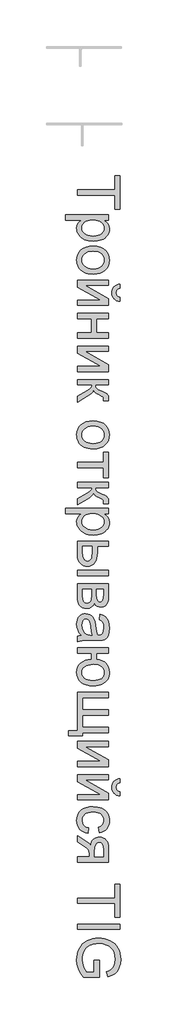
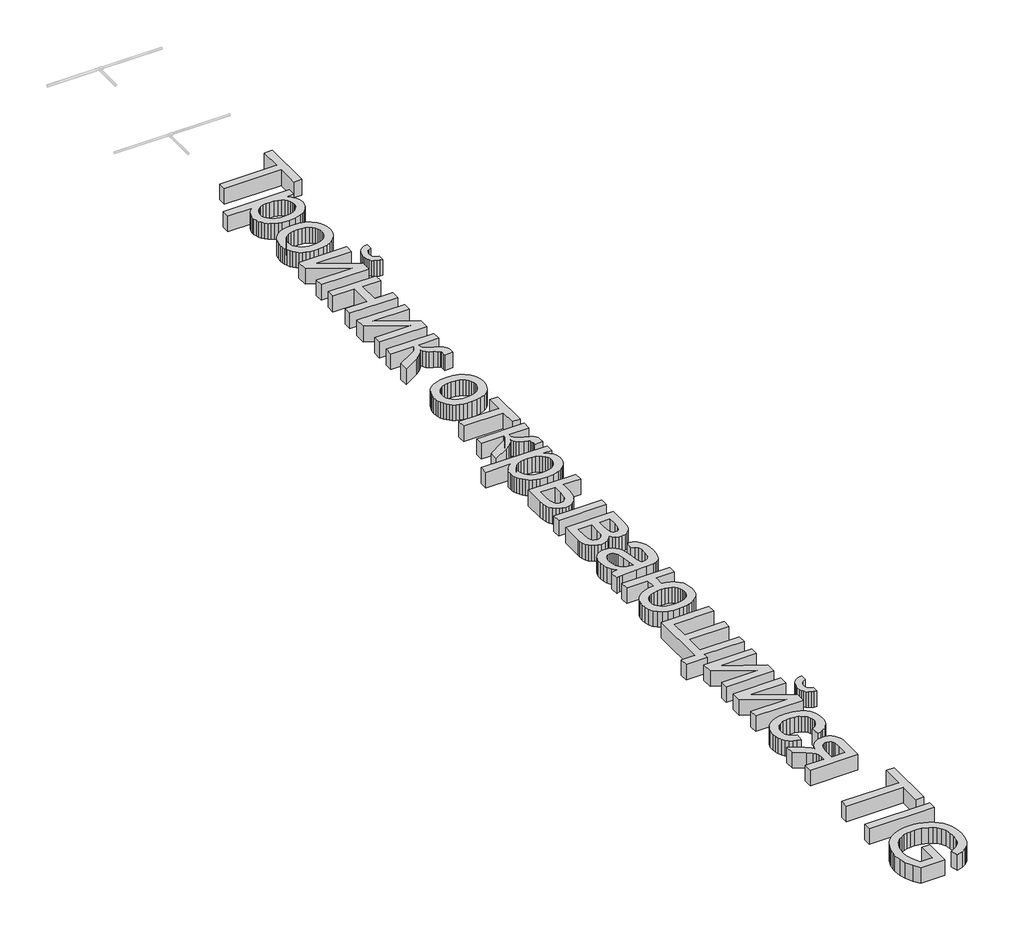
# One storey, part 20 of 33: 1 proxy.
"""IFC4 building model written with IfcOpenShell, lengths in millimetres."""

from ifc_helpers import new_model, si_unit, origin, origin_with_axes, place, context, project, spatial, polyline, outline, extrude, element, save

model = new_model("IFC4")

# Units and contexts
model_context = context("Model", 3, world=origin())
ifc_project = project(units=[si_unit("LENGTHUNIT", "METRE", prefix="MILLI")], contexts=[model_context])

# Site, building, storey
site = spatial("IfcSite", under=ifc_project)
building = spatial("IfcBuilding", under=site)
storey = spatial("IfcBuildingStorey", under=building, Name="Уровень 1", Elevation=0.0)

# Proxy
placement = place(None, origin())
element("IfcBuildingElementProxy", 1, Name="Надпись на модели 1", ObjectType="Надпись на модели 1", at=placement, inside=storey, context=model_context, shape_type="SweptSolid", body=[
    extrude(outline(polyline([(34624.4625724, -945.4132915), (35141.3856493, -945.4132915), (35141.3856493, -751.5671377), (35215.2318032, -751.5671377), (35215.2318032, -1213.1055992), (35141.3856493, -1213.1055992), (35141.3856493, -1019.2594454), (34624.4625724, -1019.2594454), (34624.4625724, -945.4132915)])), origin_with_axes(), (0.0, 0.0, 1.0), 150.0),
    extrude(outline(polyline([(34458.3087262, -1286.9517531), (35058.3087262, -1286.9517531), (35058.3087262, -1360.7979069), (34985.9048801, -1360.7979069), (35021.6200243, -1384.8844454), (35047.1308416, -1411.8555992), (35062.437332, -1443.2979069), (35067.5394955, -1480.7979069), (35065.7546397, -1506.5521136), (35060.4000724, -1530.7378107), (35051.4757936, -1553.3549982), (35038.9818032, -1574.4036761), (35023.2426205, -1593.4241088), (35004.5827647, -1609.9565607), (34983.0022359, -1624.0010319), (34958.5010339, -1635.5575223), (34904.0899762, -1651.0262723), (34844.702957, -1656.1825223), (34781.5479089, -1650.359205), (34752.4718873, -1643.0800583), (34725.0635339, -1632.8892531), (34700.0394955, -1619.9265127), (34678.1164186, -1604.3315607), (34659.2943032, -1586.1043973), (34643.5731493, -1565.2450223), (34631.1738104, -1542.7765728), (34622.3171397, -1519.7221857), (34617.0031373, -1496.0818612), (34615.2318032, -1471.8555992), (34619.9733897, -1437.9072819), (34634.1981493, -1407.6007915), (34655.6705051, -1381.6572819), (34682.1548801, -1360.7979069), (34458.3087262, -1360.7979069), (34458.3087262, -1286.9517531)]), holes=[polyline([(34837.9241109, -1360.7979069), (34802.3351686, -1362.7946016), (34771.7221878, -1368.7846857), (34746.0851686, -1378.7681593), (34725.4241109, -1392.7450223), (34709.5226686, -1409.570443), (34698.1644955, -1428.0995896), (34691.3495916, -1448.3324622), (34689.077957, -1470.2690607), (34691.4307214, -1492.5211641), (34698.4890147, -1513.1236281), (34710.2528368, -1532.0764526), (34726.7221878, -1549.3796377), (34748.1314426, -1563.7982074), (34774.7149762, -1574.0971857), (34806.4727887, -1580.2765728), (34843.4048801, -1582.3363684), (34878.687332, -1580.3261521), (34909.2462262, -1574.2955031), (34935.0815628, -1564.2444213), (34956.1933416, -1550.1729069), (34972.5995916, -1533.3069213), (34984.3183416, -1514.8724261), (34991.3495916, -1494.8694213), (34993.6933416, -1473.2979069), (34991.2008537, -1451.7940006), (34983.7233897, -1431.5611281), (34971.2609498, -1412.5992891), (34953.8135339, -1394.9084838), (34931.6155171, -1379.9851064), (34904.9012743, -1369.3255511), (34873.6708056, -1362.929818), (34837.9241109, -1360.7979069)])]), origin_with_axes(), (0.0, 0.0, 1.0), 150.0),
    extrude(outline(polyline([(34841.3856493, -1720.7979069), (34897.5725484, -1724.7912963), (34945.9890147, -1736.7714646), (34986.6350484, -1756.7384117), (35019.5106493, -1784.6921377), (35040.5232695, -1812.8351665), (35055.5322839, -1843.8988684), (35064.5376926, -1877.8832434), (35067.5394955, -1914.7882915), (35063.8841469, -1955.5289766), (35052.9181012, -1992.3664165), (35034.6413585, -2025.3006112), (35009.0539186, -2054.3315607), (34977.0211662, -2078.0259718), (34939.4084859, -2094.9505511), (34896.2158777, -2105.1052987), (34847.4433416, -2108.4902146), (34807.9150964, -2106.9938204), (34772.8399762, -2102.5046377), (34742.2179811, -2095.0226665), (34716.0491109, -2084.5479069), (34693.445445, -2071.211068), (34673.5190628, -2055.1428588), (34656.2699642, -2036.3432795), (34641.6981493, -2014.81233), (34630.1191229, -1991.3883516), (34621.8483897, -1966.9096857), (34616.8859498, -1941.3763324), (34615.2318032, -1914.7882915), (34618.8736301, -1873.4526545), (34629.7991109, -1836.2726665), (34648.0082455, -1803.2483276), (34673.5010339, -1774.3796377), (34705.8447839, -1750.9376305), (34744.6068032, -1734.1933396), (34789.7870916, -1724.1467651), (34841.3856493, -1720.7979069)]), holes=[polyline([(34841.5298801, -1794.6440607), (34805.71107, -1796.780479), (34774.6969474, -1803.1897338), (34748.4875123, -1813.8718252), (34727.0827647, -1828.8267531), (34710.4556613, -1847.0178588), (34698.5791589, -1867.4084838), (34691.4532575, -1889.9986281), (34689.077957, -1914.7882915), (34691.4667791, -1939.4517531), (34698.6332455, -1961.9517531), (34710.5773561, -1982.2882915), (34727.2991109, -2000.4613684), (34748.9156974, -2015.4162963), (34775.5443032, -2026.0983877), (34807.1849282, -2032.5076425), (34843.8375724, -2034.6440607), (34878.5205652, -2032.4941208), (34908.7233897, -2026.0443011), (34934.446046, -2015.2946016), (34955.6885339, -2000.2450223), (34972.3156373, -1982.0043372), (34984.1921397, -1961.6813204), (34991.3180412, -1939.2759718), (34993.6933416, -1914.7882915), (34991.3270556, -1889.9986281), (34984.2281974, -1867.4084838), (34972.3967671, -1847.0178588), (34955.8327647, -1828.8267531), (34934.4911181, -1813.8718252), (34908.3267551, -1803.1897338), (34877.3396758, -1796.780479), (34841.5298801, -1794.6440607)])]), origin_with_axes(), (0.0, 0.0, 1.0), 150.0),
    extrude(outline(polyline([(35058.3087262, -2191.5671377), (35058.3087262, -2265.4132915), (34727.4433416, -2265.4132915), (35058.3087262, -2446.8555992), (35058.3087262, -2542.3363684), (34624.4625724, -2542.3363684), (34624.4625724, -2468.4902146), (34953.3087262, -2468.4902146), (34624.4625724, -2288.2017531), (34624.4625724, -2191.5671377), (35058.3087262, -2191.5671377)])), origin_with_axes(), (0.0, 0.0, 1.0), 150.0),
    extrude(outline(polyline([(35215.2318032, -2431.5671377), (35215.2318032, -2486.9517531), (35190.0319835, -2482.4941208), (35167.9421397, -2475.0346857), (35148.9622719, -2464.5734478), (35133.0923801, -2451.1104069), (35120.5668392, -2434.9159958), (35111.6200243, -2416.2606473), (35106.2519354, -2395.1443612), (35104.4625724, -2371.5671377), (35106.2384137, -2345.9571617), (35111.5659378, -2323.0695415), (35120.4451445, -2302.9042771), (35132.8760339, -2285.4613684), (35148.6783176, -2270.9932194), (35167.671707, -2259.7522338), (35189.8562022, -2251.7384117), (35215.2318032, -2246.9517531), (35215.2318032, -2302.3363684), (35190.9108897, -2310.12483), (35173.6212262, -2323.1055992), (35163.2906974, -2341.3507915), (35159.8471878, -2364.9325223), (35163.1825243, -2391.5430992), (35173.1885339, -2410.7979069), (35190.3700243, -2423.7786761), (35215.2318032, -2431.5671377)])), origin_with_axes(), (0.0, 0.0, 1.0), 150.0),
    extrude(outline(polyline([(35058.3087262, -2653.1055992), (35058.3087262, -2726.9517531), (34892.1548801, -2726.9517531), (34892.1548801, -2920.7979069), (35058.3087262, -2920.7979069), (35058.3087262, -2994.6440607), (34624.4625724, -2994.6440607), (34624.4625724, -2920.7979069), (34818.3087262, -2920.7979069), (34818.3087262, -2726.9517531), (34624.4625724, -2726.9517531), (34624.4625724, -2653.1055992), (35058.3087262, -2653.1055992)])), origin_with_axes(), (0.0, 0.0, 1.0), 150.0),
    extrude(outline(polyline([(35058.3087262, -3105.4132915), (35058.3087262, -3179.2594454), (34727.4433416, -3179.2594454), (35058.3087262, -3360.7017531), (35058.3087262, -3456.1825223), (34624.4625724, -3456.1825223), (34624.4625724, -3382.3363684), (34953.3087262, -3382.3363684), (34624.4625724, -3202.0479069), (34624.4625724, -3105.4132915), (35058.3087262, -3105.4132915)])), origin_with_axes(), (0.0, 0.0, 1.0), 150.0),
    extrude(outline(polyline([(35058.3087262, -3566.9517531), (35058.3087262, -3640.7979069), (34873.6933416, -3640.7979069), (34877.0106493, -3670.8339646), (34886.9625724, -3690.2690607), (34912.9241109, -3707.46858), (34964.2702647, -3730.7979069), (35006.2594474, -3749.6019934), (35030.9769955, -3764.4757915), (35044.4445436, -3778.3580031), (35052.6837262, -3794.18733), (35056.9024762, -3816.0923781), (35058.3087262, -3848.2017531), (35058.3087262, -3862.3363684), (34984.0298801, -3862.3363684), (34984.4625724, -3842.4325223), (34982.515457, -3819.3555992), (34976.6741109, -3806.37483), (34960.4120916, -3795.8459838), (34928.0683416, -3780.9902146), (34895.6705051, -3765.3952627), (34875.4962262, -3751.2065607), (34862.0286782, -3734.0250704), (34849.7510339, -3709.4517531), (34839.3574041, -3732.8531954), (34821.0130532, -3756.0382915), (34794.7179811, -3779.0070415), (34760.4721878, -3801.7594454), (34624.4625724, -3880.7979069), (34624.4625724, -3796.8555992), (34757.5875724, -3719.4036761), (34793.0142551, -3698.4902146), (34813.9096878, -3680.4613684), (34824.1320436, -3662.2522338), (34827.5394955, -3640.7979069), (34624.4625724, -3640.7979069), (34624.4625724, -3566.9517531), (35058.3087262, -3566.9517531)])), origin_with_axes(), (0.0, 0.0, 1.0), 150.0),
    extrude(outline(polyline([(34841.3856493, -4139.2594454), (34897.5725484, -4143.2528348), (34945.9890147, -4155.2330031), (34986.6350484, -4175.1999502), (35019.5106493, -4203.1536761), (35040.5232695, -4231.296705), (35055.5322839, -4262.3604069), (35064.5376926, -4296.3447819), (35067.5394955, -4333.24983), (35063.8841469, -4373.9905151), (35052.9181012, -4410.827955), (35034.6413585, -4443.7621497), (35009.0539186, -4472.7930992), (34977.0211662, -4496.4875103), (34939.4084859, -4513.4120896), (34896.2158777, -4523.5668372), (34847.4433416, -4526.9517531), (34807.9150964, -4525.4553588), (34772.8399762, -4520.9661761), (34742.2179811, -4513.484205), (34716.0491109, -4503.0094454), (34693.445445, -4489.6726064), (34673.5190628, -4473.6043973), (34656.2699642, -4454.804818), (34641.6981493, -4433.2738684), (34630.1191229, -4409.8498901), (34621.8483897, -4385.3712242), (34616.8859498, -4359.8378708), (34615.2318032, -4333.24983), (34618.8736301, -4291.914193), (34629.7991109, -4254.734205), (34648.0082455, -4221.709866), (34673.5010339, -4192.8411761), (34705.8447839, -4169.3991689), (34744.6068032, -4152.6548781), (34789.7870916, -4142.6083035), (34841.3856493, -4139.2594454)]), holes=[polyline([(34841.5298801, -4213.1055992), (34805.71107, -4215.2420175), (34774.6969474, -4221.6512723), (34748.4875123, -4232.3333636), (34727.0827647, -4247.2882915), (34710.4556613, -4265.4793973), (34698.5791589, -4285.8700223), (34691.4532575, -4308.4601665), (34689.077957, -4333.24983), (34691.4667791, -4357.9132915), (34698.6332455, -4380.4132915), (34710.5773561, -4400.74983), (34727.2991109, -4418.9229069), (34748.9156974, -4433.8778348), (34775.5443032, -4444.5599261), (34807.1849282, -4450.9691809), (34843.8375724, -4453.1055992), (34878.5205652, -4450.9556593), (34908.7233897, -4444.5058396), (34934.446046, -4433.7561401), (34955.6885339, -4418.7065607), (34972.3156373, -4400.4658756), (34984.1921397, -4380.1428588), (34991.3180412, -4357.7375103), (34993.6933416, -4333.24983), (34991.3270556, -4308.4601665), (34984.2281974, -4285.8700223), (34972.3967671, -4265.4793973), (34955.8327647, -4247.2882915), (34934.4911181, -4232.3333636), (34908.3267551, -4221.6512723), (34877.3396758, -4215.2420175), (34841.5298801, -4213.1055992)])]), origin_with_axes(), (0.0, 0.0, 1.0), 150.0),
    extrude(outline(polyline([(35058.3087262, -4573.1055992), (35058.3087262, -4923.87483), (34984.4625724, -4923.87483), (34984.4625724, -4785.4132915), (34624.4625724, -4785.4132915), (34624.4625724, -4711.5671377), (34984.4625724, -4711.5671377), (34984.4625724, -4573.1055992), (35058.3087262, -4573.1055992)])), origin_with_axes(), (0.0, 0.0, 1.0), 150.0),
    extrude(outline(polyline([(35058.3087262, -4988.4902146), (35058.3087262, -5062.3363684), (34873.6933416, -5062.3363684), (34877.0106493, -5092.3724261), (34886.9625724, -5111.8075223), (34912.9241109, -5129.0070415), (34964.2702647, -5152.3363684), (35006.2594474, -5171.140455), (35030.9769955, -5186.0142531), (35044.4445436, -5199.8964646), (35052.6837262, -5215.7257915), (35056.9024762, -5237.6308396), (35058.3087262, -5269.7402146), (35058.3087262, -5283.87483), (34984.0298801, -5283.87483), (34984.4625724, -5263.9709838), (34982.515457, -5240.8940607), (34976.6741109, -5227.9132915), (34960.4120916, -5217.3844454), (34928.0683416, -5202.5286761), (34895.6705051, -5186.9337242), (34875.4962262, -5172.7450223), (34862.0286782, -5155.5635319), (34849.7510339, -5130.9902146), (34839.3574041, -5154.3916569), (34821.0130532, -5177.5767531), (34794.7179811, -5200.5455031), (34760.4721878, -5223.2979069), (34624.4625724, -5302.3363684), (34624.4625724, -5218.3940607), (34757.5875724, -5140.9421377), (34793.0142551, -5120.0286761), (34813.9096878, -5101.99983), (34824.1320436, -5083.7906954), (34827.5394955, -5062.3363684), (34624.4625724, -5062.3363684), (34624.4625724, -4988.4902146), (35058.3087262, -4988.4902146)])), origin_with_axes(), (0.0, 0.0, 1.0), 150.0),
    extrude(outline(polyline([(34458.3087262, -5348.4902146), (35058.3087262, -5348.4902146), (35058.3087262, -5422.3363684), (34985.9048801, -5422.3363684), (35021.6200243, -5446.4229069), (35047.1308416, -5473.3940607), (35062.437332, -5504.8363684), (35067.5394955, -5542.3363684), (35065.7546397, -5568.0905752), (35060.4000724, -5592.2762723), (35051.4757936, -5614.8934598), (35038.9818032, -5635.9421377), (35023.2426205, -5654.9625704), (35004.5827647, -5671.4950223), (34983.0022359, -5685.5394934), (34958.5010339, -5697.0959838), (34904.0899762, -5712.5647338), (34844.702957, -5717.7209838), (34781.5479089, -5711.8976665), (34752.4718873, -5704.6185199), (34725.0635339, -5694.4277146), (34700.0394955, -5681.4649742), (34678.1164186, -5665.8700223), (34659.2943032, -5647.6428588), (34643.5731493, -5626.7834838), (34631.1738104, -5604.3150343), (34622.3171397, -5581.2606473), (34617.0031373, -5557.6203228), (34615.2318032, -5533.3940607), (34619.9733897, -5499.4457434), (34634.1981493, -5469.1392531), (34655.6705051, -5443.1957434), (34682.1548801, -5422.3363684), (34458.3087262, -5422.3363684), (34458.3087262, -5348.4902146)]), holes=[polyline([(34837.9241109, -5422.3363684), (34802.3351686, -5424.3330631), (34771.7221878, -5430.3231473), (34746.0851686, -5440.3066208), (34725.4241109, -5454.2834838), (34709.5226686, -5471.1089045), (34698.1644955, -5489.6380511), (34691.3495916, -5509.8709237), (34689.077957, -5531.8075223), (34691.4307214, -5554.0596256), (34698.4890147, -5574.6620896), (34710.2528368, -5593.6149141), (34726.7221878, -5610.9180992), (34748.1314426, -5625.3366689), (34774.7149762, -5635.6356473), (34806.4727887, -5641.8150343), (34843.4048801, -5643.87483), (34878.687332, -5641.8646136), (34909.2462262, -5635.8339646), (34935.0815628, -5625.7828829), (34956.1933416, -5611.7113684), (34972.5995916, -5594.8453829), (34984.3183416, -5576.4108877), (34991.3495916, -5556.4078829), (34993.6933416, -5534.8363684), (34991.2008537, -5513.3324622), (34983.7233897, -5493.0995896), (34971.2609498, -5474.1377506), (34953.8135339, -5456.4469454), (34931.6155171, -5441.523568), (34904.9012743, -5430.8640127), (34873.6708056, -5424.4682795), (34837.9241109, -5422.3363684)])]), origin_with_axes(), (0.0, 0.0, 1.0), 150.0),
    extrude(outline(polyline([(35058.3087262, -6206.9517531), (35058.3087262, -6280.7979069), (34624.4625724, -6280.7979069), (34624.4625724, -6206.9517531), (35058.3087262, -6206.9517531)])), origin_with_axes(), (0.0, 0.0, 1.0), 150.0),
    extrude(outline(polyline([(35058.3087262, -5800.7979069), (35058.3087262, -5874.6440607), (34901.3856493, -5874.6440607), (34901.3856493, -5965.9421377), (34899.0734498, -6007.9538564), (34892.1368512, -6044.8543973), (34880.5758537, -6076.6437603), (34864.390457, -6103.3219454), (34844.1395556, -6124.429217), (34820.3820436, -6139.5058396), (34793.117921, -6148.5518131), (34762.3471878, -6151.5671377), (34734.8937623, -6149.038592), (34709.5046397, -6141.452955), (34686.17982, -6128.8102266), (34664.9193032, -6111.1104069), (34647.2194835, -6087.8577026), (34634.5767551, -6058.5563204), (34626.9911181, -6023.2062603), (34624.4625724, -5981.8075223), (34624.4625724, -5800.7979069), (35058.3087262, -5800.7979069)]), holes=[polyline([(34698.3087262, -5874.6440607), (34698.3087262, -5950.5094454), (34702.1849282, -6009.3195415), (34707.0301806, -6031.3417771), (34713.8135339, -6048.4421377), (34722.6521758, -6061.2516329), (34733.6632936, -6070.4012723), (34746.8468873, -6075.8910559), (34762.202957, -6077.7209838), (34786.3255532, -6072.2943011), (34807.6356493, -6056.0142531), (34816.343582, -6041.8841449), (34822.5635339, -6021.2005511), (34827.5394955, -5960.1729069), (34827.5394955, -5874.6440607), (34698.3087262, -5874.6440607)])]), origin_with_axes(), (0.0, 0.0, 1.0), 150.0),
    extrude(outline(polyline([(35058.3087262, -6391.5671377), (35058.3087262, -6554.2594454), (35055.8387743, -6606.5611281), (35048.4289186, -6643.4661761), (35034.4385339, -6670.6176184), (35012.2269955, -6693.6584838), (34983.2906974, -6709.3976665), (34949.1260339, -6714.6440607), (34921.5959859, -6711.4709838), (34897.8519955, -6701.9517531), (34877.7858897, -6686.0503107), (34861.2894955, -6663.7305992), (34845.9469474, -6691.06233), (34821.265457, -6713.3459838), (34789.1921397, -6728.1656954), (34751.6741109, -6733.1055992), (34721.4487503, -6729.0040367), (34695.3880532, -6720.59358), (34673.4920195, -6707.874229), (34655.7606493, -6690.8459838), (34642.0677407, -6669.4818011), (34632.2870916, -6643.7546377), (34626.4187022, -6613.6644934), (34624.4625724, -6579.2113684), (34624.4625724, -6391.5671377), (35058.3087262, -6391.5671377)]), holes=[polyline([(34698.3087262, -6465.4132915), (34698.3087262, -6555.9902146), (34701.6440628, -6605.3531954), (34711.6500724, -6636.3267531), (34719.5331854, -6645.9271136), (34729.8411782, -6652.9493492), (34757.7318032, -6659.2594454), (34776.2113705, -6656.1043973), (34793.2846878, -6646.6392531), (34806.6440628, -6632.1080031), (34813.9818032, -6613.7546377), (34818.3087262, -6548.7786761), (34818.3087262, -6465.4132915), (34698.3087262, -6465.4132915)]), polyline([(34892.1548801, -6465.4132915), (34892.1548801, -6538.3940607), (34895.9048801, -6598.6104069), (34901.5298801, -6614.1152146), (34910.9048801, -6627.8892531), (34923.3087262, -6637.5707434), (34938.0202647, -6640.7979069), (34950.0184618, -6639.3826425), (34960.0515147, -6635.1368492), (34968.1194234, -6628.0605271), (34974.2221878, -6618.1536761), (34981.9024762, -6587.46858), (34984.4625724, -6540.7017531), (34984.4625724, -6465.4132915), (34892.1548801, -6465.4132915)])]), origin_with_axes(), (0.0, 0.0, 1.0), 150.0),
    extrude(outline(polyline([(34679.8471878, -7102.3363684), (34649.5947839, -7067.0539165), (34629.7991109, -7030.7257915), (34618.8736301, -6992.5226665), (34615.2318032, -6951.6152146), (34617.422308, -6918.7351064), (34623.9938224, -6889.9024742), (34634.9463464, -6865.117318), (34650.2798801, -6844.3796377), (34669.0208657, -6828.0049381), (34690.1957455, -6816.3087242), (34713.8045195, -6809.2909958), (34739.8471878, -6806.9517531), (34770.4601686, -6810.4854069), (34798.2606493, -6821.0863684), (34822.0587262, -6837.4385319), (34840.6644955, -6858.2257915), (34854.7269955, -6882.6548781), (34864.8952647, -6909.9325223), (34876.0010339, -6973.8267531), (34887.6837262, -7049.3315607), (34901.3856493, -7101.9036761), (34917.827957, -7102.3363684), (34950.7846878, -7097.2522338), (34962.9902166, -7090.8970656), (34972.3471878, -7081.99983), (34981.6861301, -7066.6212242), (34988.3568032, -7047.8892531), (34993.6933416, -7000.3652146), (34990.1416589, -6956.37483), (34979.4866109, -6925.6536761), (34959.781082, -6904.7041569), (34929.077957, -6890.0286761), (34938.3087262, -6816.1825223), (34978.6933416, -6829.0010319), (35010.4241109, -6848.1296377), (35034.6909378, -6875.3531954), (35052.6837262, -6912.4565607), (35063.8255532, -6957.8351665), (35067.5394955, -7009.8844454), (35064.2582455, -7059.8063204), (35054.4144955, -7099.3796377), (35039.6128128, -7129.2173781), (35021.4577647, -7149.9325223), (34999.0118512, -7163.6705031), (34971.3375724, -7172.5767531), (34906.7221878, -7176.1825223), (34814.8471878, -7176.1825223), (34686.5539186, -7179.9325223), (34654.8411782, -7185.4854069), (34624.4625724, -7194.6440607), (34624.4625724, -7120.7979069), (34650.1356493, -7108.9709838), (34679.8471878, -7102.3363684)]), holes=[polyline([(34827.5394955, -7102.3363684), (34815.2438224, -7052.7209838), (34804.8952647, -6983.2017531), (34792.9241109, -6919.6680992), (34784.7390147, -6903.1356473), (34773.452957, -6890.8940607), (34759.9313224, -6883.3219454), (34745.0394955, -6880.7979069), (34723.0803609, -6886.296705), (34705.0875724, -6902.7930992), (34693.0803609, -6929.9265127), (34689.077957, -6967.3363684), (34693.4950243, -7006.99983), (34706.7462262, -7042.0479069), (34726.2714666, -7070.4613684), (34749.5106493, -7090.2209838), (34773.452957, -7098.9830031), (34806.6260339, -7101.9036761), (34827.5394955, -7102.3363684)])]), origin_with_axes(), (0.0, 0.0, 1.0), 150.0),
    extrude(outline(polyline([(35058.3087262, -7277.7209838), (35058.3087262, -7351.5671377), (34892.1548801, -7351.5671377), (34892.1548801, -7434.6440607), (34932.3231493, -7441.851092), (34967.4433416, -7453.8087242), (34997.515457, -7470.5169574), (35022.5394955, -7491.9757915), (35042.2269955, -7517.5812603), (35056.2894955, -7546.7293973), (35064.7269955, -7579.4202026), (35067.5394955, -7615.6536761), (35065.8853488, -7646.3252506), (35060.9229089, -7673.5803588), (35052.6521758, -7697.4190006), (35041.0731493, -7717.8411761), (35009.6128128, -7751.9878107), (34968.1644955, -7779.5719454), (34942.9241109, -7790.2044574), (34913.6452647, -7797.7991088), (34880.327957, -7802.3558997), (34842.9721878, -7803.87483), (34790.327957, -7800.7333035), (34744.4625724, -7791.3087242), (34705.3760339, -7775.601092), (34673.0683416, -7753.6104069), (34647.7648561, -7726.2381112), (34629.6909378, -7694.3856473), (34618.8465868, -7658.0530151), (34615.2318032, -7617.2402146), (34618.6212262, -7579.2038564), (34628.7894955, -7545.1428588), (34645.7366109, -7515.0572218), (34669.4625724, -7488.9469454), (34699.1019955, -7467.461068), (34733.7894955, -7451.2486281), (34773.5250724, -7440.3096256), (34818.3087262, -7434.6440607), (34818.3087262, -7351.5671377), (34624.4625724, -7351.5671377), (34624.4625724, -7277.7209838), (35058.3087262, -7277.7209838)]), holes=[polyline([(34993.6933416, -7620.4132915), (34991.3045195, -7595.4117891), (34984.1380532, -7573.3399742), (34972.1939426, -7554.1978468), (34955.4721878, -7537.9854069), (34934.4415387, -7525.0812603), (34909.5707455, -7515.8640127), (34880.859808, -7510.3336641), (34848.3087262, -7508.4902146), (34809.8757335, -7510.3471857), (34776.9325243, -7515.9180992), (34749.4790988, -7525.202955), (34727.515457, -7538.2017531), (34710.6990508, -7554.3105271), (34698.687332, -7572.9253107), (34691.4803008, -7594.046104), (34689.077957, -7617.6729069), (34691.3000123, -7641.2230872), (34697.9661782, -7662.546705), (34709.0764546, -7681.6437603), (34724.6308416, -7698.5142531), (34745.1341469, -7712.3018131), (34771.0911782, -7722.1500704), (34802.5019354, -7728.0590247), (34839.3664186, -7730.0286761), (34875.5367912, -7728.3249502), (34906.8844474, -7723.2137723), (34933.4093873, -7714.6951425), (34955.1116109, -7702.7690607), (34971.9911181, -7687.3994694), (34984.0479089, -7668.5503107), (34991.2819835, -7646.2215848), (34993.6933416, -7620.4132915)])]), origin_with_axes(), (0.0, 0.0, 1.0), 150.0),
    extrude(outline(polyline([(35058.3087262, -7896.1825223), (35058.3087262, -7970.0286761), (34698.3087262, -7970.0286761), (34698.3087262, -8136.1825223), (35058.3087262, -8136.1825223), (35058.3087262, -8210.0286761), (34698.3087262, -8210.0286761), (34698.3087262, -8376.1825223), (35058.3087262, -8376.1825223), (35058.3087262, -8450.0286761), (34698.3087262, -8450.0286761), (34698.3087262, -8496.1825223), (34504.4625724, -8496.1825223), (34504.4625724, -8422.3363684), (34624.4625724, -8422.3363684), (34624.4625724, -7896.1825223), (35058.3087262, -7896.1825223)])), origin_with_axes(), (0.0, 0.0, 1.0), 150.0),
    extrude(outline(polyline([(35058.3087262, -8570.0286761), (35058.3087262, -8643.87483), (34727.4433416, -8643.87483), (35058.3087262, -8825.3171377), (35058.3087262, -8920.7979069), (34624.4625724, -8920.7979069), (34624.4625724, -8846.9517531), (34953.3087262, -8846.9517531), (34624.4625724, -8666.6632915), (34624.4625724, -8570.0286761), (35058.3087262, -8570.0286761)])), origin_with_axes(), (0.0, 0.0, 1.0), 150.0),
    extrude(outline(polyline([(35215.2318032, -9271.5671377), (35215.2318032, -9326.9517531), (35190.0319835, -9322.4941208), (35167.9421397, -9315.0346857), (35148.9622719, -9304.5734478), (35133.0923801, -9291.1104069), (35120.5668392, -9274.9159958), (35111.6200243, -9256.2606473), (35106.2519354, -9235.1443612), (35104.4625724, -9211.5671377), (35106.2384137, -9185.9571617), (35111.5659378, -9163.0695415), (35120.4451445, -9142.9042771), (35132.8760339, -9125.4613684), (35148.6783176, -9110.9932194), (35167.671707, -9099.7522338), (35189.8562022, -9091.7384117), (35215.2318032, -9086.9517531), (35215.2318032, -9142.3363684), (35190.9108897, -9150.12483), (35173.6212262, -9163.1055992), (35163.2906974, -9181.3507915), (35159.8471878, -9204.9325223), (35163.1825243, -9231.5430992), (35173.1885339, -9250.7979069), (35190.3700243, -9263.7786761), (35215.2318032, -9271.5671377)])), origin_with_axes(), (0.0, 0.0, 1.0), 150.0),
    extrude(outline(polyline([(35058.3087262, -9031.5671377), (35058.3087262, -9105.4132915), (34727.4433416, -9105.4132915), (35058.3087262, -9286.8555992), (35058.3087262, -9382.3363684), (34624.4625724, -9382.3363684), (34624.4625724, -9308.4902146), (34953.3087262, -9308.4902146), (34624.4625724, -9128.2017531), (34624.4625724, -9031.5671377), (35058.3087262, -9031.5671377)])), origin_with_axes(), (0.0, 0.0, 1.0), 150.0),
    extrude(outline(polyline([(34781.3856493, -9770.0286761), (34772.1548801, -9843.87483), (34737.3096277, -9835.842979), (34706.4757936, -9823.2858877), (34679.6533777, -9806.2035559), (34656.8423801, -9784.5959838), (34638.6377527, -9759.3736281), (34625.6344474, -9731.4469454), (34617.8324642, -9700.8159357), (34615.2318032, -9667.4805992), (34618.8601085, -9626.0638324), (34629.7450243, -9588.9289165), (34647.8865508, -9556.0758516), (34673.2846878, -9527.5046377), (34705.461671, -9504.3781353), (34743.9397359, -9487.859205), (34788.7188825, -9477.9478468), (34839.7991109, -9474.6440607), (34905.5142551, -9480.2870896), (34935.08607, -9487.3408756), (34962.4673801, -9497.2161761), (34987.1083056, -9509.9805992), (35008.4589666, -9525.7017531), (35026.5193633, -9544.3796377), (35041.2894955, -9566.0142531), (35052.7738705, -9589.6275343), (35060.9769955, -9614.2414165), (35065.8988705, -9639.8558997), (35067.5394955, -9666.4709838), (35065.2858897, -9699.2339045), (35058.5250724, -9728.8688204), (35047.2570436, -9755.3757314), (35031.4818032, -9778.7546377), (35011.5599282, -9798.6089045), (34987.8519955, -9814.5418973), (34960.3580051, -9826.553616), (34929.077957, -9834.6440607), (34919.8471878, -9760.7979069), (34952.0647359, -9747.4024742), (34975.1596878, -9726.5430992), (34989.0599282, -9699.3736281), (34993.6933416, -9667.0479069), (34991.4126926, -9641.9562603), (34984.5707455, -9619.3255511), (34973.1675003, -9599.1557795), (34957.202957, -9581.4469454), (34936.3075243, -9567.0283756), (34910.1116109, -9556.7293973), (34878.6152166, -9550.5500103), (34841.8183416, -9548.4902146), (34804.4670796, -9550.5049381), (34772.6056012, -9556.5491088), (34746.2339065, -9566.6227266), (34725.3519955, -9580.7257915), (34709.4821037, -9598.0830631), (34698.1464666, -9617.9193011), (34691.3450844, -9640.2345055), (34689.077957, -9665.0286761), (34694.7390147, -9703.2678588), (34701.8153368, -9719.804818), (34711.7221878, -9734.6200223), (34724.5677407, -9747.2988083), (34740.4601686, -9757.4265127), (34759.3994714, -9765.0031353), (34781.3856493, -9770.0286761)])), origin_with_axes(), (0.0, 0.0, 1.0), 150.0),
    extrude(outline(polyline([(35058.3087262, -10240.7979069), (34624.4625724, -10240.7979069), (34624.4625724, -10166.9517531), (34790.6164186, -10166.9517531), (34790.6164186, -10126.7113684), (34788.2726686, -10094.6200223), (34781.2414186, -10071.9036761), (34760.796707, -10050.0166569), (34718.2125724, -10020.4132915), (34624.4625724, -9961.5671377), (34624.4625724, -9876.1825223), (34743.0202647, -9950.3171377), (34785.5683416, -9983.0575223), (34797.9721878, -9998.4541569), (34804.4625724, -10013.2017531), (34810.4571637, -9986.0863684), (34819.9313224, -9962.7209838), (34832.8850484, -9943.1055992), (34849.3183416, -9927.2402146), (34868.1765147, -9914.9986281), (34888.4048801, -9906.2546377), (34910.0034378, -9901.0082434), (34932.9721878, -9899.2594454), (34959.5647359, -9901.6482675), (34983.5250724, -9908.8147338), (35004.8531974, -9920.7588444), (35023.5491109, -9937.4805992), (35038.7564426, -9958.7275944), (35049.6188224, -9984.2474261), (35056.1362503, -10014.0400944), (35058.3087262, -10048.1055992), (35058.3087262, -10240.7979069)]), holes=[polyline([(34984.4625724, -10166.9517531), (34984.4625724, -10069.5959838), (34980.1897359, -10019.3135319), (34974.8486902, -10002.3258516), (34967.3712262, -9990.7738684), (34948.8195436, -9977.5226665), (34927.3471878, -9973.1055992), (34912.1984498, -9974.7327026), (34899.2041589, -9979.6140127), (34888.3643152, -9987.7495295), (34879.6789186, -9999.1392531), (34873.0217671, -10014.6665968), (34868.2666589, -10035.2149742), (34864.4625724, -10091.37483), (34864.4625724, -10166.9517531), (34984.4625724, -10166.9517531)])]), origin_with_axes(), (0.0, 0.0, 1.0), 150.0),
    extrude(outline(polyline([(34624.4625724, -10739.2594454), (35141.3856493, -10739.2594454), (35141.3856493, -10545.4132915), (35215.2318032, -10545.4132915), (35215.2318032, -11006.9517531), (35141.3856493, -11006.9517531), (35141.3856493, -10813.1055992), (34624.4625724, -10813.1055992), (34624.4625724, -10739.2594454)])), origin_with_axes(), (0.0, 0.0, 1.0), 150.0),
    extrude(outline(polyline([(34624.4625724, -11099.2594454), (35215.2318032, -11099.2594454), (35215.2318032, -11173.1055992), (34624.4625724, -11173.1055992), (34624.4625724, -11099.2594454)])), origin_with_axes(), (0.0, 0.0, 1.0), 150.0),
    extrude(outline(polyline([(34855.2318032, -11597.7209838), (34929.077957, -11597.7209838), (34929.077957, -11837.7209838), (34708.2606493, -11837.7209838), (34667.6957455, -11779.3976665), (34638.5971878, -11719.2354069), (34621.0731493, -11657.3784357), (34615.2318032, -11593.9709838), (34617.5530171, -11551.553616), (34624.5166589, -11511.1284357), (34636.1227287, -11472.695443), (34652.3712262, -11436.2546377), (34673.0187623, -11402.9824021), (34697.8219474, -11374.0551184), (34726.7807815, -11349.4727867), (34759.8952647, -11329.2354069), (34796.1062022, -11313.428616), (34834.3543993, -11302.1380511), (34874.6398561, -11295.3637122), (34916.9625724, -11293.1055992), (34959.289796, -11295.3546978), (35000.1656974, -11302.1019934), (35039.5902767, -11313.3474862), (35077.5635339, -11329.0911761), (35112.4178008, -11349.053616), (35142.4854089, -11372.9553588), (35167.7663585, -11400.7964045), (35188.2606493, -11432.5767531), (35204.0989907, -11467.6068011), (35215.4120916, -11505.1969454), (35222.1999522, -11545.3471857), (35224.4625724, -11588.0575223), (35219.2161782, -11648.8868492), (35203.4769955, -11703.5863684), (35178.3808416, -11749.6500704), (35162.749832, -11768.5037362), (35145.0635339, -11784.5719454), (35101.9205051, -11810.4072819), (35047.3471878, -11829.2113684), (35028.1644955, -11761.1344454), (35067.0887743, -11745.9361281), (35096.4577647, -11727.4565607), (35118.5971878, -11703.0094454), (35135.8327647, -11669.9084838), (35146.9205051, -11630.4433396), (35150.6164186, -11586.9036761), (35146.6320436, -11535.9361281), (35134.6789186, -11492.3604069), (35116.2534378, -11456.3387723), (35092.8519955, -11428.0334838), (35065.6825243, -11406.3087242), (35035.952957, -11390.0286761), (34980.2077647, -11372.7209838), (34919.9914186, -11366.9517531), (34883.117921, -11368.6870295), (34849.3724282, -11373.8928588), (34818.7549402, -11382.569241), (34791.265457, -11394.7161761), (34767.0076445, -11410.1759117), (34746.0851686, -11428.7906954), (34728.4980291, -11450.5605271), (34714.2462262, -11475.4854069), (34703.2351085, -11502.397967), (34695.3700243, -11530.1308396), (34690.6509738, -11558.6840247), (34689.077957, -11588.0575223), (34693.8195436, -11639.2053588), (34708.0443032, -11689.0911761), (34727.6416589, -11732.4144934), (34748.5010339, -11763.87483), (34855.2318032, -11763.87483), (34855.2318032, -11597.7209838)])), origin_with_axes(), (0.0, 0.0, 1.0), 150.0),
])

save(model, "model.ifc")
